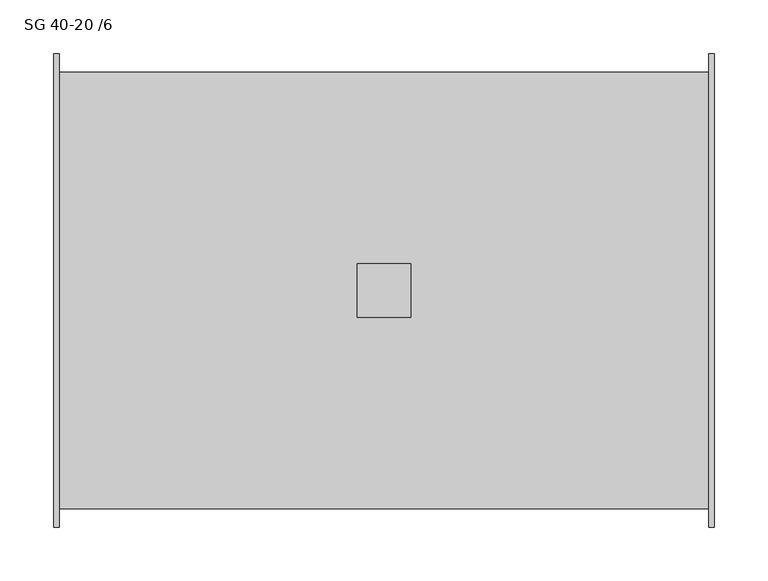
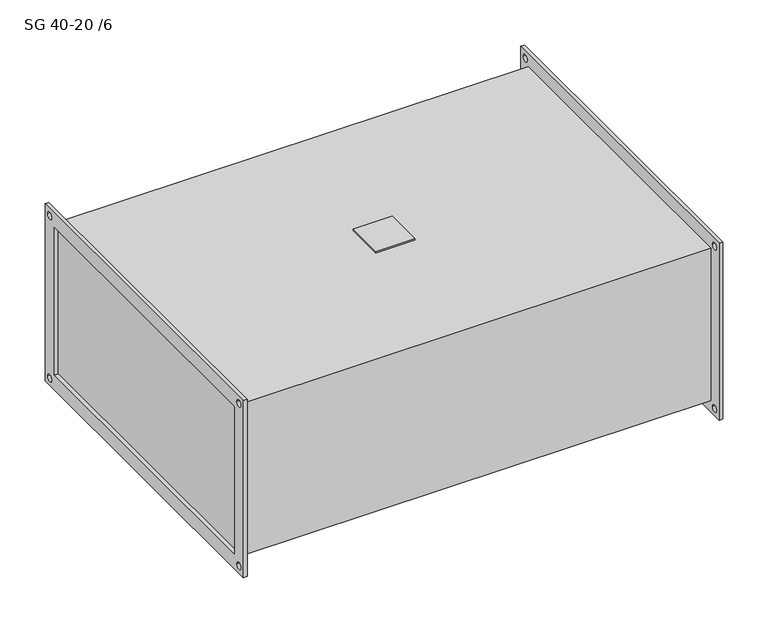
"""IFC4 building model written with IfcOpenShell, lengths in millimetres: damper geometry, KORF_Шумоглушитель_SG : SG 40-20 /6."""

from ifc_helpers import new_model, si_unit, point, frame, frame_2d, origin, place, context, project, spatial, polyline, circle_curve, trimmed, segment, composite_curve, outline, extrude, source, transform, mapped, element, save


def sg_40_20_6_3dc7d298(model_context):
    return source(origin(), model_context, "Body", "SweptSolid", [
        extrude(outline(polyline([(282.0, -25.0), (282.0, 25.0), (332.0, 25.0), (332.0, -25.0), (282.0, -25.0)])), frame((0.0, 0.0, 103.0), z_axis=(0.0, 0.0, 1.0), x_axis=(1.0, 0.0, 0.0)), (0.0, 0.0, 1.0), 2.0),
        extrude(outline(polyline([(-220.0, 120.0), (220.0, 120.0), (220.0, -120.0), (-220.0, -120.0), (-220.0, 120.0)]), holes=[polyline([(-200.0, 100.0), (-200.0, -100.0), (200.0, -100.0), (200.0, 100.0), (-200.0, 100.0)]), composite_curve([segment(trimmed(circle_curve(frame_2d((210.0, 110.0)), 4.5), [point((205.5, 110.0))], [point((214.5, 110.0))], True, "CARTESIAN"), True, "CONTINUOUS"), segment(trimmed(circle_curve(frame_2d((210.0, 110.0)), 4.5), [point((214.5, 110.0))], [point((205.5, 110.0))], True, "CARTESIAN"), True, "CONTINUOUS")], self_intersect=False), composite_curve([segment(trimmed(circle_curve(frame_2d((-210.0, 110.0)), 4.5), [point((-214.5, 110.0))], [point((-205.5, 110.0))], True, "CARTESIAN"), True, "CONTINUOUS"), segment(trimmed(circle_curve(frame_2d((-210.0, 110.0)), 4.5), [point((-205.5, 110.0))], [point((-214.5, 110.0))], True, "CARTESIAN"), True, "CONTINUOUS")], self_intersect=False), composite_curve([segment(trimmed(circle_curve(frame_2d((-210.0, -110.0)), 4.5), [point((-214.5, -110.0))], [point((-205.5, -110.0))], True, "CARTESIAN"), True, "CONTINUOUS"), segment(trimmed(circle_curve(frame_2d((-210.0, -110.0)), 4.5), [point((-205.5, -110.0))], [point((-214.5, -110.0))], True, "CARTESIAN"), True, "CONTINUOUS")], self_intersect=False), composite_curve([segment(trimmed(circle_curve(frame_2d((210.0, -110.0)), 4.5), [point((205.5, -110.0))], [point((214.5, -110.0))], True, "CARTESIAN"), True, "CONTINUOUS"), segment(trimmed(circle_curve(frame_2d((210.0, -110.0)), 4.5), [point((214.5, -110.0))], [point((205.5, -110.0))], True, "CARTESIAN"), True, "CONTINUOUS")], self_intersect=False)]), frame((609.0, 0.0, 0.0), z_axis=(1.0, 0.0, 0.0), x_axis=(0.0, 1.0, 0.0)), (0.0, 0.0, 1.0), 5.0),
        extrude(outline(polyline([(-220.0, 120.0), (220.0, 120.0), (220.0, -120.0), (-220.0, -120.0), (-220.0, 120.0)]), holes=[polyline([(-200.0, 100.0), (-200.0, -100.0), (200.0, -100.0), (200.0, 100.0), (-200.0, 100.0)]), composite_curve([segment(trimmed(circle_curve(frame_2d((210.0, 110.0)), 4.5), [point((205.5, 110.0))], [point((214.5, 110.0))], True, "CARTESIAN"), True, "CONTINUOUS"), segment(trimmed(circle_curve(frame_2d((210.0, 110.0)), 4.5), [point((214.5, 110.0))], [point((205.5, 110.0))], True, "CARTESIAN"), True, "CONTINUOUS")], self_intersect=False), composite_curve([segment(trimmed(circle_curve(frame_2d((-210.0, 110.0)), 4.5), [point((-214.5, 110.0))], [point((-205.5, 110.0))], True, "CARTESIAN"), True, "CONTINUOUS"), segment(trimmed(circle_curve(frame_2d((-210.0, 110.0)), 4.5), [point((-205.5, 110.0))], [point((-214.5, 110.0))], True, "CARTESIAN"), True, "CONTINUOUS")], self_intersect=False), composite_curve([segment(trimmed(circle_curve(frame_2d((-210.0, -110.0)), 4.5), [point((-214.5, -110.0))], [point((-205.5, -110.0))], True, "CARTESIAN"), True, "CONTINUOUS"), segment(trimmed(circle_curve(frame_2d((-210.0, -110.0)), 4.5), [point((-205.5, -110.0))], [point((-214.5, -110.0))], True, "CARTESIAN"), True, "CONTINUOUS")], self_intersect=False), composite_curve([segment(trimmed(circle_curve(frame_2d((210.0, -110.0)), 4.5), [point((205.5, -110.0))], [point((214.5, -110.0))], True, "CARTESIAN"), True, "CONTINUOUS"), segment(trimmed(circle_curve(frame_2d((210.0, -110.0)), 4.5), [point((214.5, -110.0))], [point((205.5, -110.0))], True, "CARTESIAN"), True, "CONTINUOUS")], self_intersect=False)]), frame((0.0, 0.0, 0.0), z_axis=(1.0, 0.0, 0.0), x_axis=(0.0, 1.0, 0.0)), (0.0, 0.0, 1.0), 5.0),
        extrude(outline(polyline([(609.0, 203.0), (609.0, -203.0), (5.0, -203.0), (5.0, 203.0), (609.0, 203.0)])), frame((0.0, 0.0, -103.0), z_axis=(0.0, 0.0, 1.0), x_axis=(1.0, 0.0, 0.0)), (0.0, 0.0, 1.0), 206.0),
    ])


if __name__ == "__main__":
    model = new_model("IFC4")
    model_context = context("Model", 3, world=origin())
    ifc_project = project(units=[si_unit("LENGTHUNIT", "METRE", prefix="MILLI")], contexts=[model_context])
    site = spatial("IfcSite", under=ifc_project)
    building = spatial("IfcBuilding", under=site)
    placement = place(None, origin())
    sg_40_20_6_shape = sg_40_20_6_3dc7d298(model_context)
    element("IfcDamper", 1, ObjectType="KORF_Шумоглушитель_SG : SG 40-20 /6", at=placement, inside=building, context=model_context, shape_type="MappedRepresentation", body=[
        mapped(sg_40_20_6_shape, transform((0.0, 0.0, 0.0), x_axis=(1.0, 0.0, 0.0), y_axis=(0.0, 1.0, 0.0), z_axis=(0.0, 0.0, 1.0))),
    ])
    save(model, "model.ifc")
